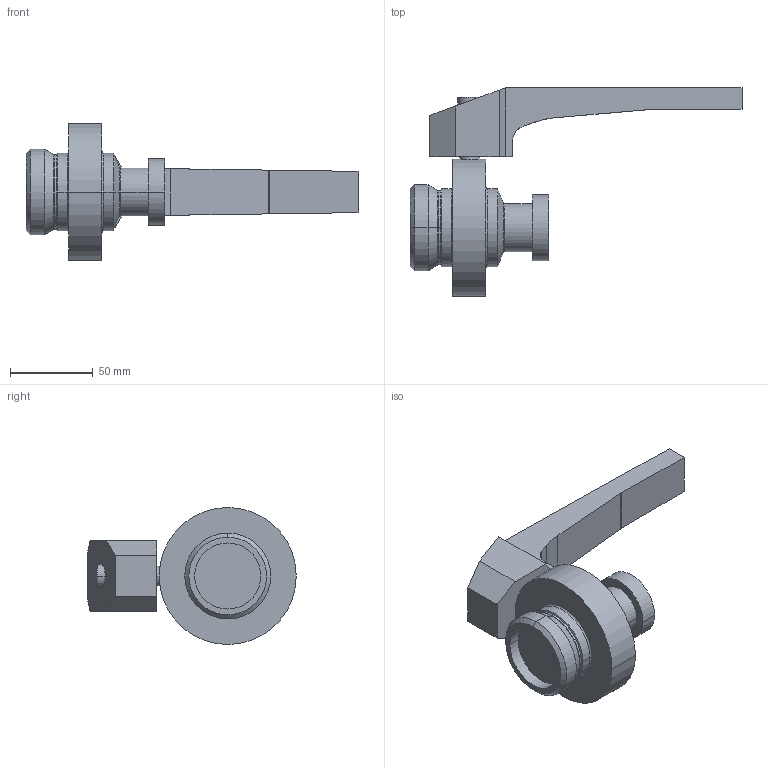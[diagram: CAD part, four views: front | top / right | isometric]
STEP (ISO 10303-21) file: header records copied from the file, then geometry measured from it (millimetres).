
FILE_DESCRIPTION(('OneSpaceDesigner STEP Export'),'2;1');
FILE_NAME('SV1-25-H-1K2G.stp','2011-05-24T11:32:44',(''),(''),'OneSpace Designer STEP processor for AP214 (Solid Model)','OneSpace Modeling 15.00B 25-Jun-2007 (C) CoCreate Software GmbH','');
FILE_SCHEMA(('AUTOMOTIVE_DESIGN { 1 0 10303 214 1 1 1 1 }'));
Length unit declared in the file: millimetre
Products named in the file (3): SV1-25-H-1K2G-Kern; Handhebel-SV; SV1-25-H-1K2G
Assembly tree (2 placements, depth 2):
  SV1-25-H-1K2G
    Handhebel-SV
    SV1-25-H-1K2G-Kern
Bounding box: 201 x 126.24 x 83 mm (x, y, z)
Volume: 314953 mm3; surface area: 47585.6 mm2
Topology: 2 solids, 2 shells, 64 faces, 145 edges, 90 vertices
Faces by surface type: plane 25, cylinder 23, torus 8, cone 8
Entity records: 2022 total; most frequent: CARTESIAN_POINT 647, ORIENTED_EDGE 290, DIRECTION 248, EDGE_CURVE 145, VERTEX_POINT 90, AXIS2_PLACEMENT_3D 87, VECTOR 74, LINE 74
